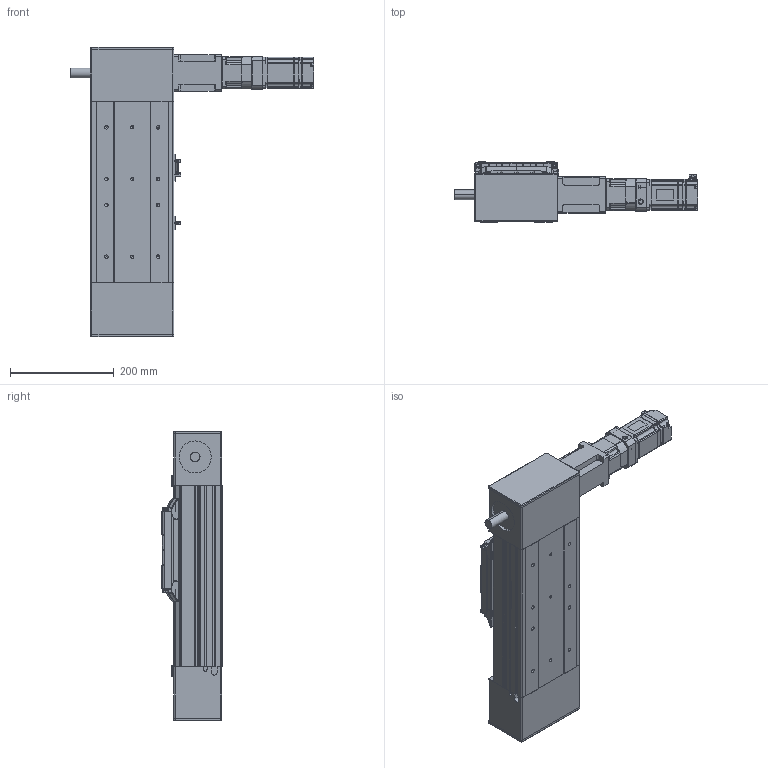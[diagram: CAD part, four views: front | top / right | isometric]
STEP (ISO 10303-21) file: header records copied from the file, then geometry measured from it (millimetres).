
FILE_DESCRIPTION (( 'STEP AP203' ), '1' );
FILE_NAME ('PCB160SDN-0000-ST100-40NR00-N-I3R.STEP', '2015-10-21T01:40:58', ( '' ), ( '' ), 'SwSTEP 2.0', 'SolidWorks 2012', '' );
FILE_SCHEMA (( 'CONFIG_CONTROL_DESIGN' ));
Products named in the file (14): PCB160SDN-0000-ST100-40NR00-N-I3R; jc42c; sgmjv_04a_a21; EE_SX672; PGX62-H-1_3; MOTOR BRACKET 62(SHAFT TYPE); PCB160-Carrier UPPER COVER; PCB160-Carrier Assy; PCB160-Carrier END COVER; PCB160-Carrier; PCB160-Idler Pulley Block; PCB160-Drive Pulley Block D; PCB160-Sensor Dog; PCB160-100ST BASE
Assembly tree (16 placements, depth 3):
  PCB160SDN-0000-ST100-40NR00-N-I3R
    PCB160-100ST BASE
    PCB160-Drive Pulley Block D
    PCB160-Idler Pulley Block
    PCB160-Carrier Assy
      PCB160-Carrier
      PCB160-Sensor Dog
      PCB160-Carrier END COVER  x2
      PCB160-Carrier UPPER COVER
    EE_SX672  x3
    MOTOR BRACKET 62(SHAFT TYPE)
    PGX62-H-1_3
    sgmjv_04a_a21
    jc42c
Bounding box: 470.6 x 116 x 560 mm (x, y, z)
Volume: 8632028.8 mm3; surface area: 989815.4 mm2
Topology: 39 solids, 40 shells, 3326 faces, 8867 edges, 5655 vertices
Faces by surface type: plane 1857, cylinder 1052, cone 235, bspline 110, torus 36, sphere 36
Entity records: 94376 total; most frequent: CARTESIAN_POINT 22340, ORIENTED_EDGE 14924, DIRECTION 14355, EDGE_CURVE 7487, VERTEX_POINT 4843, LINE 4809, VECTOR 4809, AXIS2_PLACEMENT_3D 4773
